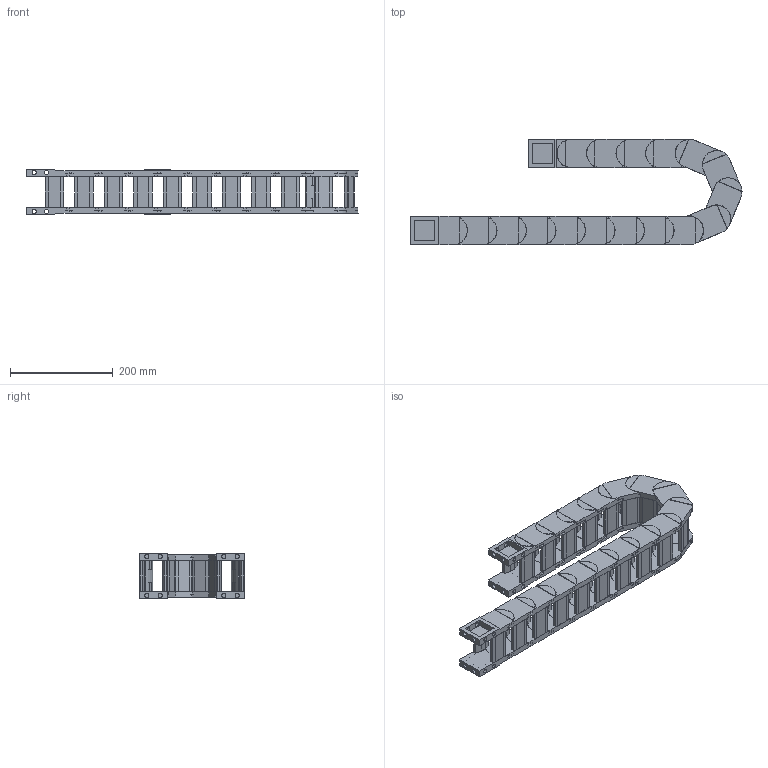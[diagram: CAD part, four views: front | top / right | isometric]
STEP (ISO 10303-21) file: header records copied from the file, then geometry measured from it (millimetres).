
FILE_DESCRIPTION((''),'2;1');
FILE_NAME('HD35-R75-ZPT_ASM','2022-05-05T08:20:54',('admin'),(''),'CREO PARAMETRIC BY PTC INC, 2021164','CREO PARAMETRIC BY PTC INC, 2021164','');
FILE_SCHEMA(('CONFIG_CONTROL_DESIGN','GEOMETRIC_VALIDATION_PROPERTIES_MIM'));
Length unit declared in the file: millimetre
Products named in the file (6): HD35; 35-600001; HD35_ASM; 35-TL_11; 35-WL; HD35-R75-ZPT_ASM
Assembly tree (22 placements, depth 3):
  HD35-R75-ZPT_ASM
    HD35_ASM  x16
      HD35
      35-600001
    35-TL_11
    35-WL
    35-600001  x2
Bounding box: 646.69 x 205 x 88 mm (x, y, z)
Volume: 2069622.8 mm3; surface area: 777584.6 mm2
Topology: 72 solids, 72 shells, 1354 faces, 3602 edges, 2468 vertices
Faces by surface type: plane 918, cylinder 436
Entity records: 9383 total; most frequent: DIRECTION 1418, CARTESIAN_POINT 1408, ORIENTED_EDGE 1300, EDGE_CURVE 650, AXIS2_PLACEMENT_3D 504, VERTEX_POINT 440, VECTOR 410, LINE 410
